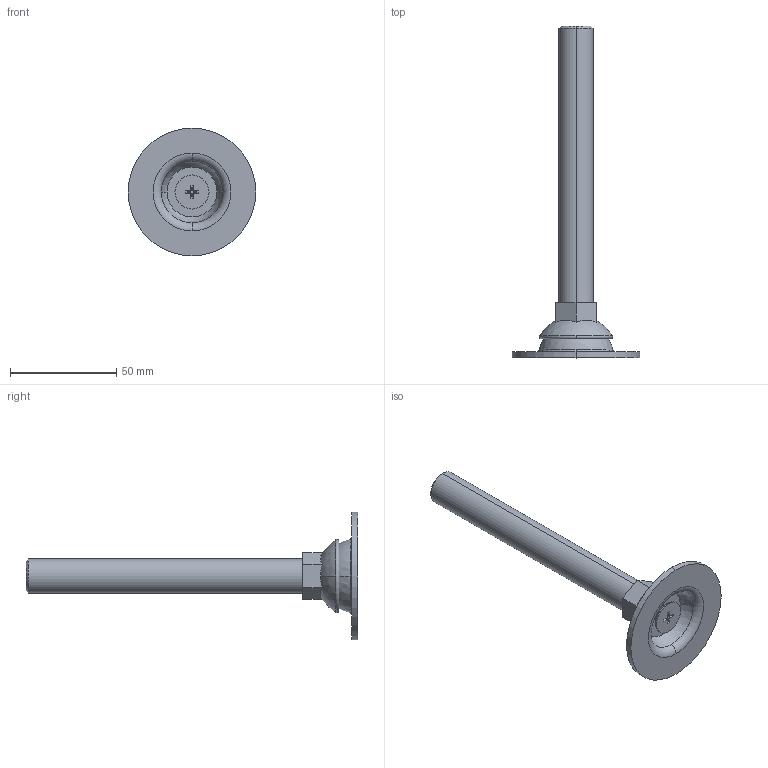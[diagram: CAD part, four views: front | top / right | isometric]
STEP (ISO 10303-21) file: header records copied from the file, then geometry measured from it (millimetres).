
FILE_DESCRIPTION (( 'STEP AP214' ), '1' );
FILE_NAME ('SFL-FB16130.STEP', '2016-01-18T13:27:31', ( '' ), ( '' ), 'SwSTEP 2.0', 'SolidWorks 2012', '' );
FILE_SCHEMA (( 'AUTOMOTIVE_DESIGN' ));
Length unit declared in the file: millimetre
Products named in the file (1): SFL-FB16130
Bounding box: 60 x 156 x 60 mm (x, y, z)
Volume: 42904.4 mm3; surface area: 15321.8 mm2
Topology: 1 solids, 1 shells, 54 faces, 132 edges, 86 vertices
Faces by surface type: plane 26, cylinder 8, cone 8, torus 6, sphere 6
Entity records: 1650 total; most frequent: DIRECTION 310, CARTESIAN_POINT 273, ORIENTED_EDGE 264, EDGE_CURVE 132, AXIS2_PLACEMENT_3D 123, VERTEX_POINT 86, CIRCLE 68, LINE 64
